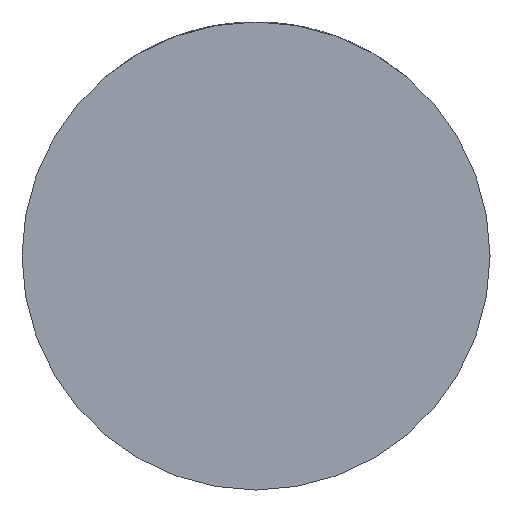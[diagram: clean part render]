
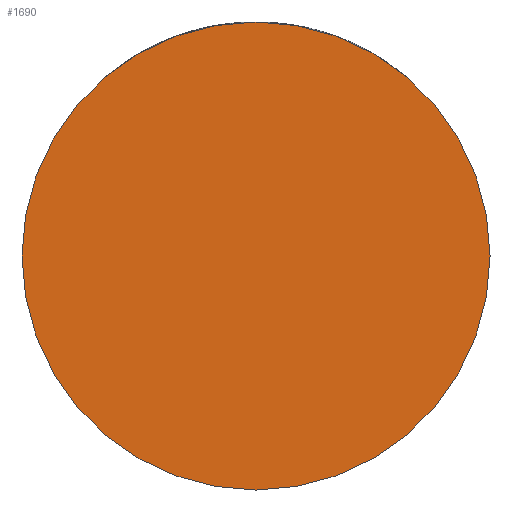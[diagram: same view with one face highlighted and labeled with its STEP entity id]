
A CAD part, front view. The second image highlights one B-rep face of the part: STEP entity #1690.
In plain terms, the highlighted planar face has unit normal (0, -1, 0).
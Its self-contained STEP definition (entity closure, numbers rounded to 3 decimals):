
#731 = VERTEX_POINT ( 'NONE', #1750 ) ;
#881 = DIRECTION ( 'NONE',  ( 0., -1., 0. ) ) ;
#1075 = CARTESIAN_POINT ( 'NONE',  ( -32., -27., 0. ) ) ;
#1288 = CIRCLE ( 'NONE', #3447, 32. ) ;
#1464 = ORIENTED_EDGE ( 'NONE', *, *, #2967, .T. ) ;
#1690 = ADVANCED_FACE ( 'NONE', ( #3687 ), #2915, .T. ) ;
#1715 = CIRCLE ( 'NONE', #4103, 32. ) ;
#1750 = CARTESIAN_POINT ( 'NONE',  ( 32., -27., 0. ) ) ;
#1808 = EDGE_CURVE ( 'NONE', #1966, #731, #1715, .T. ) ;
#1966 = VERTEX_POINT ( 'NONE', #1075 ) ;
#2053 = CARTESIAN_POINT ( 'NONE',  ( 0., -27., 0. ) ) ;
#2192 = EDGE_LOOP ( 'NONE', ( #4076, #1464 ) ) ;
#2258 = DIRECTION ( 'NONE',  ( 1., 0., 0. ) ) ;
#2267 = DIRECTION ( 'NONE',  ( 0., -1., 0. ) ) ;
#2915 = PLANE ( 'NONE',  #4062 ) ;
#2967 = EDGE_CURVE ( 'NONE', #731, #1966, #1288, .T. ) ;
#3447 = AXIS2_PLACEMENT_3D ( 'NONE', #3988, #2267, #4015 ) ;
#3687 = FACE_OUTER_BOUND ( 'NONE', #2192, .T. ) ;
#3770 = DIRECTION ( 'NONE',  ( 1., 0., 0. ) ) ;
#3988 = CARTESIAN_POINT ( 'NONE',  ( 0., -27., 0. ) ) ;
#4015 = DIRECTION ( 'NONE',  ( 1., 0., 0. ) ) ;
#4062 = AXIS2_PLACEMENT_3D ( 'NONE', #4261, #881, #2258 ) ;
#4076 = ORIENTED_EDGE ( 'NONE', *, *, #1808, .T. ) ;
#4103 = AXIS2_PLACEMENT_3D ( 'NONE', #2053, #4115, #3770 ) ;
#4115 = DIRECTION ( 'NONE',  ( 0., -1., 0. ) ) ;
#4261 = CARTESIAN_POINT ( 'NONE',  ( 0., -27., 0. ) ) ;
